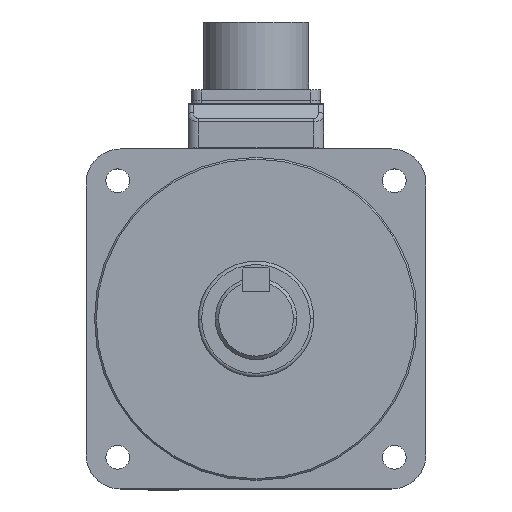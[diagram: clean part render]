
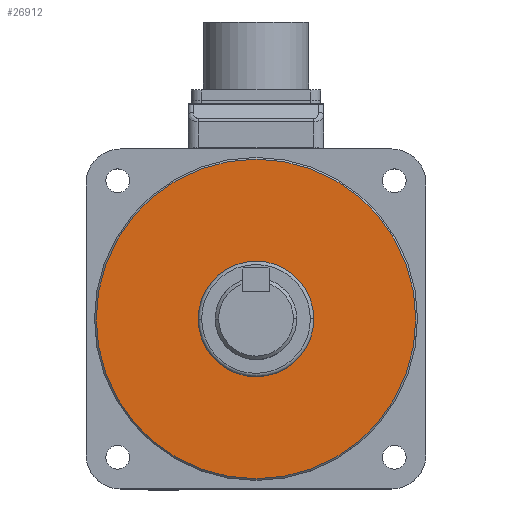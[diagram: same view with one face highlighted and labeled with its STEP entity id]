
A CAD part, top view. The second image highlights one B-rep face of the part: STEP entity #26912.
In plain terms, the highlighted planar face has unit normal (0, 0, 1).
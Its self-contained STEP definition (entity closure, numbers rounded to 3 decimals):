
#689 = CARTESIAN_POINT ( 'NONE',  ( -47., 0., 5. ) ) ;
#1938 = EDGE_CURVE ( 'NONE', #21188, #44680, #50036, .T. ) ;
#2930 = CARTESIAN_POINT ( 'NONE',  ( 0., 0., 5. ) ) ;
#3144 = CARTESIAN_POINT ( 'NONE',  ( 0., 0., 5. ) ) ;
#7179 = DIRECTION ( 'NONE',  ( 1., 0., 0. ) ) ;
#7390 = DIRECTION ( 'NONE',  ( 1., 0., 0. ) ) ;
#9068 = AXIS2_PLACEMENT_3D ( 'NONE', #2930, #32315, #7179 ) ;
#13247 = DIRECTION ( 'NONE',  ( 0., 0., 1. ) ) ;
#14739 = EDGE_LOOP ( 'NONE', ( #26721, #37315 ) ) ;
#18129 = FACE_OUTER_BOUND ( 'NONE', #14739, .T. ) ;
#21188 = VERTEX_POINT ( 'NONE', #689 ) ;
#23559 = AXIS2_PLACEMENT_3D ( 'NONE', #38301, #13247, #42524 ) ;
#26454 = AXIS2_PLACEMENT_3D ( 'NONE', #3144, #32522, #7390 ) ;
#26721 = ORIENTED_EDGE ( 'NONE', *, *, #1938, .T. ) ;
#26912 = ADVANCED_FACE ( 'NONE', ( #18129 ), #32157, .T. ) ;
#30940 = CARTESIAN_POINT ( 'NONE',  ( 47., 0., 5. ) ) ;
#32157 = PLANE ( 'NONE',  #26454 ) ;
#32315 = DIRECTION ( 'NONE',  ( 0., 0., 1. ) ) ;
#32522 = DIRECTION ( 'NONE',  ( 0., 0., 1. ) ) ;
#37315 = ORIENTED_EDGE ( 'NONE', *, *, #50071, .T. ) ;
#38301 = CARTESIAN_POINT ( 'NONE',  ( 0., 0., 5. ) ) ;
#42524 = DIRECTION ( 'NONE',  ( 1., 0., 0. ) ) ;
#44680 = VERTEX_POINT ( 'NONE', #30940 ) ;
#46517 = CIRCLE ( 'NONE', #23559, 47. ) ;
#50036 = CIRCLE ( 'NONE', #9068, 47. ) ;
#50071 = EDGE_CURVE ( 'NONE', #44680, #21188, #46517, .T. ) ;
